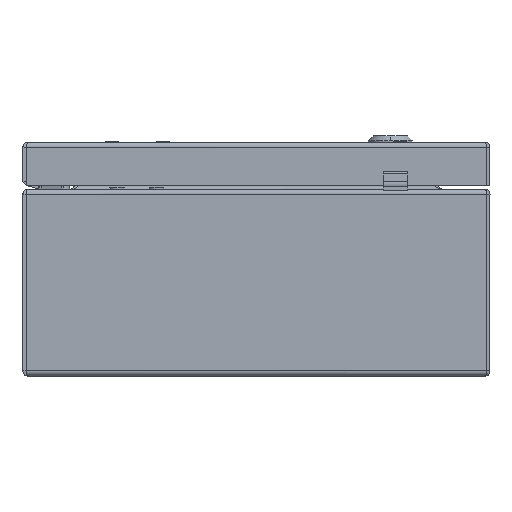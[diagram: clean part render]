
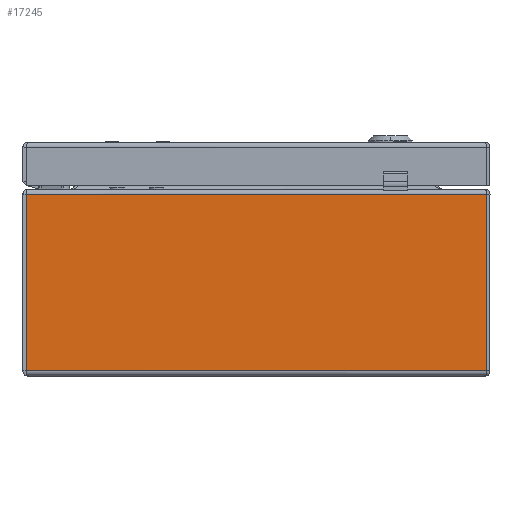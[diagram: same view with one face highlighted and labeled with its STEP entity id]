
A CAD part, front view. The second image highlights one B-rep face of the part: STEP entity #17245.
In plain terms, the highlighted planar face has unit normal (0, -1, 0).
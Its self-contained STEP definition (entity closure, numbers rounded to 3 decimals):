
#6158 = CARTESIAN_POINT ( 'NONE',  ( -5.825, -7.877, 4.603 ) ) ;
#6160 = CARTESIAN_POINT ( 'NONE',  ( -5.825, -7.876, 0.13 ) ) ;
#6464 = AXIS2_PLACEMENT_3D ( 'NONE', #11914, #11921, #11922 ) ;
#10670 = FACE_OUTER_BOUND ( 'NONE', #54969, .T. ) ;
#11077 = PLANE ( 'NONE',  #6464 ) ;
#11891 = VERTEX_POINT ( 'NONE', #6158 ) ;
#11893 = VERTEX_POINT ( 'NONE', #6160 ) ;
#11914 = CARTESIAN_POINT ( 'NONE',  ( 84.672, -7.877, 4.603 ) ) ;
#11921 = DIRECTION ( 'NONE',  ( 0., 1., 0. ) ) ;
#11922 = DIRECTION ( 'NONE',  ( 0., 0., -1. ) ) ;
#17245 = ADVANCED_FACE ( 'NONE', ( #10670 ), #11077, .F. ) ;
#32856 = CARTESIAN_POINT ( 'NONE',  ( 5.825, -7.877, 4.603 ) ) ;
#33286 = CARTESIAN_POINT ( 'NONE',  ( 5.825, -7.877, 0.13 ) ) ;
#36381 = ORIENTED_EDGE ( 'NONE', *, *, #55258, .F. ) ;
#36384 = ORIENTED_EDGE ( 'NONE', *, *, #55290, .T. ) ;
#36544 = ORIENTED_EDGE ( 'NONE', *, *, #55291, .F. ) ;
#36726 = ORIENTED_EDGE ( 'NONE', *, *, #55286, .F. ) ;
#44229 = LINE ( 'NONE', #44545, #44234 ) ;
#44234 = VECTOR ( 'NONE', #44547, 39.37 ) ;
#44268 = LINE ( 'NONE', #44621, #44286 ) ;
#44272 = LINE ( 'NONE', #44612, #44276 ) ;
#44276 = VECTOR ( 'NONE', #44618, 39.37 ) ;
#44284 = LINE ( 'NONE', #44625, #44285 ) ;
#44285 = VECTOR ( 'NONE', #44626, 39.37 ) ;
#44286 = VECTOR ( 'NONE', #44628, 39.37 ) ;
#44545 = CARTESIAN_POINT ( 'NONE',  ( 5.825, -7.877, 4.603 ) ) ;
#44547 = DIRECTION ( 'NONE',  ( 0., 0., -1. ) ) ;
#44612 = CARTESIAN_POINT ( 'NONE',  ( -5.825, -7.877, 4.603 ) ) ;
#44618 = DIRECTION ( 'NONE',  ( 0., 0., 1. ) ) ;
#44621 = CARTESIAN_POINT ( 'NONE',  ( 84.672, -7.876, 0.13 ) ) ;
#44625 = CARTESIAN_POINT ( 'NONE',  ( 84.672, -7.877, 4.603 ) ) ;
#44626 = DIRECTION ( 'NONE',  ( -1., 0., 0. ) ) ;
#44628 = DIRECTION ( 'NONE',  ( -1., 0., 0. ) ) ;
#48578 = VERTEX_POINT ( 'NONE', #32856 ) ;
#50697 = VERTEX_POINT ( 'NONE', #33286 ) ;
#54969 = EDGE_LOOP ( 'NONE', ( #36726, #36544, #36381, #36384 ) ) ;
#55258 = EDGE_CURVE ( 'NONE', #48578, #50697, #44229, .T. ) ;
#55286 = EDGE_CURVE ( 'NONE', #11893, #11891, #44272, .T. ) ;
#55290 = EDGE_CURVE ( 'NONE', #48578, #11891, #44284, .T. ) ;
#55291 = EDGE_CURVE ( 'NONE', #50697, #11893, #44268, .T. ) ;
